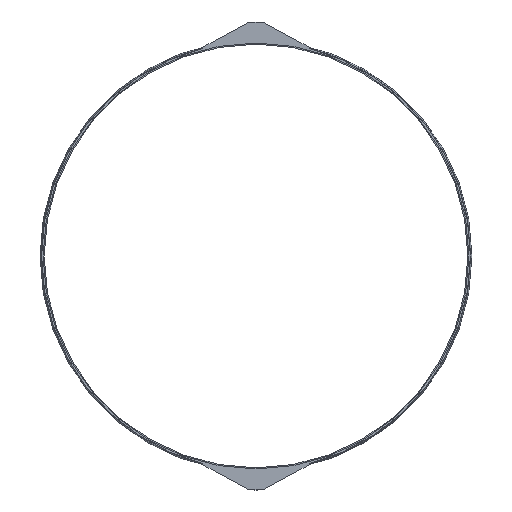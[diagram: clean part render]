
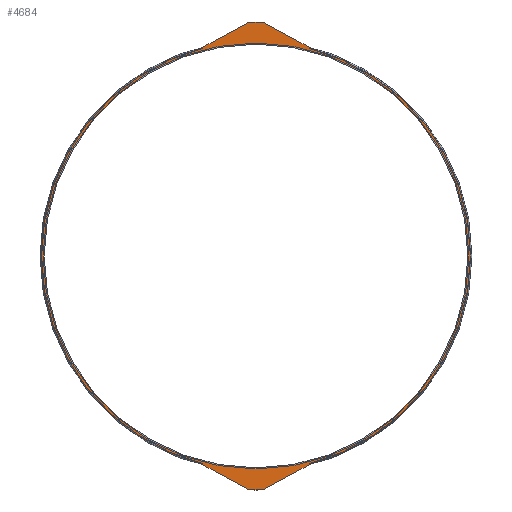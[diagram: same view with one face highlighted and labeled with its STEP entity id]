
A CAD part, left-side view. The second image highlights one B-rep face of the part: STEP entity #4684.
In plain terms, the highlighted planar face has unit normal (-1, 0, 0).
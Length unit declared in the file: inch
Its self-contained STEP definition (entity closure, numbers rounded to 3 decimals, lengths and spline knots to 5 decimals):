
#134=FACE_BOUND('',#814,.T.);
#300=PLANE('',#5095);
#539=FACE_OUTER_BOUND('',#813,.T.);
#813=EDGE_LOOP('',(#4140,#4141,#4142,#4143,#4144,#4145,#4146,#4147,#4148,
#4149,#4150,#4151,#4152,#4153,#4154,#4155,#4156,#4157,#4158,#4159));
#814=EDGE_LOOP('',(#4160,#4161));
#973=LINE('',#6759,#1422);
#977=LINE('',#6771,#1426);
#981=LINE('',#6783,#1430);
#985=LINE('',#6795,#1434);
#987=LINE('',#6800,#1436);
#1206=LINE('',#7611,#1655);
#1210=LINE('',#7623,#1659);
#1214=LINE('',#7635,#1663);
#1218=LINE('',#7645,#1667);
#1221=LINE('',#7651,#1670);
#1422=VECTOR('',#5479,0.3937);
#1426=VECTOR('',#5491,0.3937);
#1430=VECTOR('',#5503,0.3937);
#1434=VECTOR('',#5515,0.3937);
#1436=VECTOR('',#5519,0.3937);
#1655=VECTOR('',#6082,0.3937);
#1659=VECTOR('',#6094,0.3937);
#1663=VECTOR('',#6106,0.3937);
#1667=VECTOR('',#6118,0.3937);
#1670=VECTOR('',#6123,0.3937);
#1739=CIRCLE('',#4808,0.063);
#1741=CIRCLE('',#4812,0.125);
#1743=CIRCLE('',#4816,0.125);
#1745=CIRCLE('',#4820,0.063);
#1750=CIRCLE('',#4829,72.5);
#1803=CIRCLE('',#4993,0.063);
#1805=CIRCLE('',#4997,0.125);
#1807=CIRCLE('',#5001,0.125);
#1809=CIRCLE('',#5005,0.063);
#1811=CIRCLE('',#5011,72.5);
#1863=CIRCLE('',#5093,72.);
#1864=CIRCLE('',#5094,72.);
#1988=VERTEX_POINT('',#6749);
#1989=VERTEX_POINT('',#6751);
#1991=VERTEX_POINT('',#6757);
#1993=VERTEX_POINT('',#6763);
#1995=VERTEX_POINT('',#6769);
#1997=VERTEX_POINT('',#6775);
#1999=VERTEX_POINT('',#6781);
#2001=VERTEX_POINT('',#6787);
#2003=VERTEX_POINT('',#6793);
#2005=VERTEX_POINT('',#6799);
#2014=VERTEX_POINT('',#6821);
#2206=VERTEX_POINT('',#7602);
#2207=VERTEX_POINT('',#7604);
#2209=VERTEX_POINT('',#7610);
#2211=VERTEX_POINT('',#7616);
#2213=VERTEX_POINT('',#7622);
#2215=VERTEX_POINT('',#7628);
#2217=VERTEX_POINT('',#7634);
#2219=VERTEX_POINT('',#7640);
#2221=VERTEX_POINT('',#7649);
#2285=VERTEX_POINT('',#7841);
#2286=VERTEX_POINT('',#7843);
#2468=EDGE_CURVE('',#1988,#1989,#1739,.T.);
#2472=EDGE_CURVE('',#1991,#1988,#973,.T.);
#2475=EDGE_CURVE('',#1993,#1991,#1741,.T.);
#2478=EDGE_CURVE('',#1995,#1993,#977,.T.);
#2481=EDGE_CURVE('',#1997,#1995,#1743,.T.);
#2484=EDGE_CURVE('',#1999,#1997,#981,.T.);
#2487=EDGE_CURVE('',#2001,#1999,#1745,.T.);
#2490=EDGE_CURVE('',#2003,#2001,#985,.T.);
#2492=EDGE_CURVE('',#1989,#2005,#987,.T.);
#2504=EDGE_CURVE('',#2014,#2003,#1750,.T.);
#2790=EDGE_CURVE('',#2207,#2206,#1803,.T.);
#2793=EDGE_CURVE('',#2209,#2207,#1206,.T.);
#2796=EDGE_CURVE('',#2211,#2209,#1805,.T.);
#2799=EDGE_CURVE('',#2213,#2211,#1210,.T.);
#2802=EDGE_CURVE('',#2215,#2213,#1807,.T.);
#2805=EDGE_CURVE('',#2217,#2215,#1214,.T.);
#2808=EDGE_CURVE('',#2219,#2217,#1809,.T.);
#2811=EDGE_CURVE('',#2014,#2219,#1218,.T.);
#2814=EDGE_CURVE('',#2206,#2221,#1221,.T.);
#2819=EDGE_CURVE('',#2005,#2221,#1811,.T.);
#2910=EDGE_CURVE('',#2286,#2285,#1863,.T.);
#2911=EDGE_CURVE('',#2285,#2286,#1864,.T.);
#4140=ORIENTED_EDGE('',*,*,#2504,.F.);
#4141=ORIENTED_EDGE('',*,*,#2811,.T.);
#4142=ORIENTED_EDGE('',*,*,#2808,.T.);
#4143=ORIENTED_EDGE('',*,*,#2805,.T.);
#4144=ORIENTED_EDGE('',*,*,#2802,.T.);
#4145=ORIENTED_EDGE('',*,*,#2799,.T.);
#4146=ORIENTED_EDGE('',*,*,#2796,.T.);
#4147=ORIENTED_EDGE('',*,*,#2793,.T.);
#4148=ORIENTED_EDGE('',*,*,#2790,.T.);
#4149=ORIENTED_EDGE('',*,*,#2814,.T.);
#4150=ORIENTED_EDGE('',*,*,#2819,.F.);
#4151=ORIENTED_EDGE('',*,*,#2492,.F.);
#4152=ORIENTED_EDGE('',*,*,#2468,.F.);
#4153=ORIENTED_EDGE('',*,*,#2472,.F.);
#4154=ORIENTED_EDGE('',*,*,#2475,.F.);
#4155=ORIENTED_EDGE('',*,*,#2478,.F.);
#4156=ORIENTED_EDGE('',*,*,#2481,.F.);
#4157=ORIENTED_EDGE('',*,*,#2484,.F.);
#4158=ORIENTED_EDGE('',*,*,#2487,.F.);
#4159=ORIENTED_EDGE('',*,*,#2490,.F.);
#4160=ORIENTED_EDGE('',*,*,#2910,.T.);
#4161=ORIENTED_EDGE('',*,*,#2911,.T.);
#4684=ADVANCED_FACE('',(#539,#134),#300,.T.);
#4808=AXIS2_PLACEMENT_3D('',#6752,#5472,#5473);
#4812=AXIS2_PLACEMENT_3D('',#6765,#5485,#5486);
#4816=AXIS2_PLACEMENT_3D('',#6777,#5497,#5498);
#4820=AXIS2_PLACEMENT_3D('',#6789,#5509,#5510);
#4829=AXIS2_PLACEMENT_3D('',#6823,#5539,#5540);
#4993=AXIS2_PLACEMENT_3D('',#7605,#6076,#6077);
#4997=AXIS2_PLACEMENT_3D('',#7617,#6088,#6089);
#5001=AXIS2_PLACEMENT_3D('',#7629,#6100,#6101);
#5005=AXIS2_PLACEMENT_3D('',#7641,#6112,#6113);
#5011=AXIS2_PLACEMENT_3D('',#7661,#6133,#6134);
#5093=AXIS2_PLACEMENT_3D('',#7844,#6336,#6337);
#5094=AXIS2_PLACEMENT_3D('',#7845,#6338,#6339);
#5095=AXIS2_PLACEMENT_3D('',#7846,#6340,#6341);
#5472=DIRECTION('center_axis',(1.,0.,0.));
#5473=DIRECTION('ref_axis',(0.,-1.,0.));
#5479=DIRECTION('',(0.,0.881,0.474));
#5485=DIRECTION('center_axis',(1.,0.,0.));
#5486=DIRECTION('ref_axis',(0.,-0.474,0.881));
#5491=DIRECTION('',(0.,1.,0.));
#5497=DIRECTION('center_axis',(1.,0.,0.));
#5498=DIRECTION('ref_axis',(0.,0.,1.));
#5503=DIRECTION('',(0.,0.881,-0.474));
#5509=DIRECTION('center_axis',(1.,0.,0.));
#5510=DIRECTION('ref_axis',(0.,0.474,0.881));
#5515=DIRECTION('',(0.,0.,-1.));
#5519=DIRECTION('',(0.,0.,1.));
#5539=DIRECTION('center_axis',(1.,0.,0.));
#5540=DIRECTION('ref_axis',(0.,0.,-1.));
#6076=DIRECTION('center_axis',(-1.,0.,0.));
#6077=DIRECTION('ref_axis',(0.,-1.,0.));
#6082=DIRECTION('',(0.,0.881,-0.474));
#6088=DIRECTION('center_axis',(-1.,0.,0.));
#6089=DIRECTION('ref_axis',(0.,-0.474,-0.881));
#6094=DIRECTION('',(0.,1.,0.));
#6100=DIRECTION('center_axis',(-1.,0.,0.));
#6101=DIRECTION('ref_axis',(0.,0.,-1.));
#6106=DIRECTION('',(0.,0.881,0.474));
#6112=DIRECTION('center_axis',(-1.,0.,0.));
#6113=DIRECTION('ref_axis',(0.,0.474,-0.881));
#6118=DIRECTION('',(0.,0.,1.));
#6123=DIRECTION('',(0.,0.,-1.));
#6133=DIRECTION('center_axis',(1.,0.,0.));
#6134=DIRECTION('ref_axis',(0.,0.,-1.));
#6336=DIRECTION('center_axis',(1.,0.,0.));
#6337=DIRECTION('ref_axis',(0.,0.,-1.));
#6338=DIRECTION('center_axis',(1.,0.,0.));
#6339=DIRECTION('ref_axis',(0.,0.,-1.));
#6340=DIRECTION('center_axis',(-1.,0.,0.));
#6341=DIRECTION('ref_axis',(0.,0.,1.));
#6749=CARTESIAN_POINT('',(-7.375,17.96685,-70.62282));
#6751=CARTESIAN_POINT('',(-7.375,18.,-70.56734));
#6752=CARTESIAN_POINT('Origin',(-7.375,17.937,-70.56734));
#6757=CARTESIAN_POINT('',(-7.375,2.42774,-78.98507));
#6759=CARTESIAN_POINT('',(-7.375,2.42774,-78.98507));
#6763=CARTESIAN_POINT('',(-7.375,2.3685,-79.));
#6765=CARTESIAN_POINT('Origin',(-7.375,2.3685,-78.875));
#6769=CARTESIAN_POINT('',(-7.375,-2.3685,-79.));
#6771=CARTESIAN_POINT('',(-7.375,0.,-79.));
#6775=CARTESIAN_POINT('',(-7.375,-2.42774,-78.98507));
#6777=CARTESIAN_POINT('Origin',(-7.375,-2.3685,-78.875));
#6781=CARTESIAN_POINT('',(-7.375,-17.96685,-70.62282));
#6783=CARTESIAN_POINT('',(-7.375,-17.96685,-70.62282));
#6787=CARTESIAN_POINT('',(-7.375,-18.,-70.56734));
#6789=CARTESIAN_POINT('Origin',(-7.375,-17.937,-70.56734));
#6793=CARTESIAN_POINT('',(-7.375,-18.,-70.22998));
#6795=CARTESIAN_POINT('',(-7.375,-18.,-70.22998));
#6799=CARTESIAN_POINT('',(-7.375,18.,-70.22998));
#6800=CARTESIAN_POINT('',(-7.375,18.,-70.56734));
#6821=CARTESIAN_POINT('',(-7.375,-18.,70.22998));
#6823=CARTESIAN_POINT('Origin',(-7.375,0.,0.));
#7602=CARTESIAN_POINT('',(-7.375,18.,70.56734));
#7604=CARTESIAN_POINT('',(-7.375,17.96685,70.62282));
#7605=CARTESIAN_POINT('Origin',(-7.375,17.937,70.56734));
#7610=CARTESIAN_POINT('',(-7.375,2.42774,78.98507));
#7611=CARTESIAN_POINT('',(-7.375,2.42774,78.98507));
#7616=CARTESIAN_POINT('',(-7.375,2.3685,79.));
#7617=CARTESIAN_POINT('Origin',(-7.375,2.3685,78.875));
#7622=CARTESIAN_POINT('',(-7.375,-2.3685,79.));
#7623=CARTESIAN_POINT('',(-7.375,0.,79.));
#7628=CARTESIAN_POINT('',(-7.375,-2.42774,78.98507));
#7629=CARTESIAN_POINT('Origin',(-7.375,-2.3685,78.875));
#7634=CARTESIAN_POINT('',(-7.375,-17.96685,70.62282));
#7635=CARTESIAN_POINT('',(-7.375,-17.96685,70.62282));
#7640=CARTESIAN_POINT('',(-7.375,-18.,70.56734));
#7641=CARTESIAN_POINT('Origin',(-7.375,-17.937,70.56734));
#7645=CARTESIAN_POINT('',(-7.375,-18.,70.22998));
#7649=CARTESIAN_POINT('',(-7.375,18.,70.22998));
#7651=CARTESIAN_POINT('',(-7.375,18.,70.56734));
#7661=CARTESIAN_POINT('Origin',(-7.375,0.,0.));
#7841=CARTESIAN_POINT('',(-7.375,-72.,0.));
#7843=CARTESIAN_POINT('',(-7.375,72.,0.));
#7844=CARTESIAN_POINT('Origin',(-7.375,0.,0.));
#7845=CARTESIAN_POINT('Origin',(-7.375,0.,0.));
#7846=CARTESIAN_POINT('Origin',(-7.375,72.5,0.));
